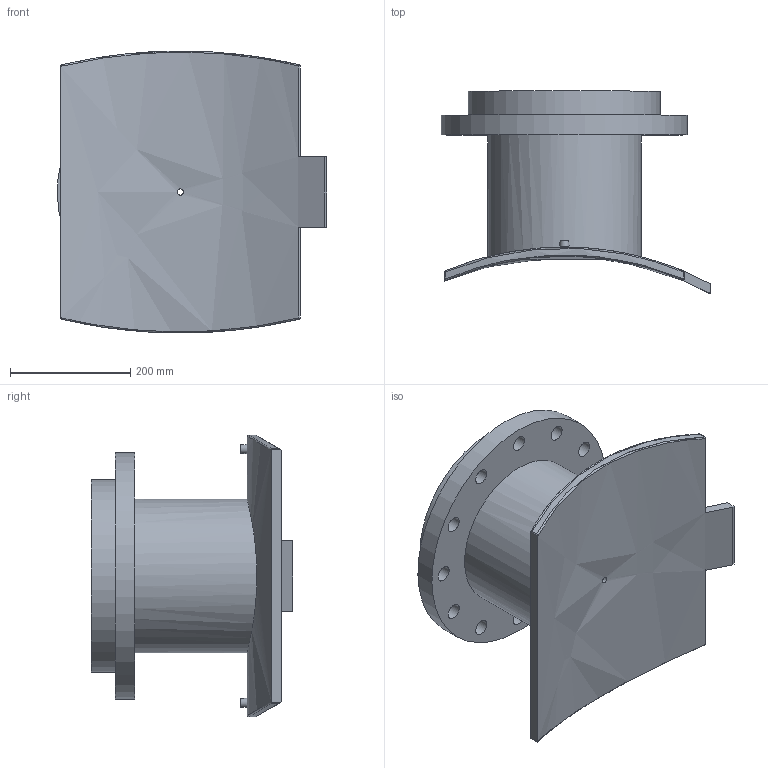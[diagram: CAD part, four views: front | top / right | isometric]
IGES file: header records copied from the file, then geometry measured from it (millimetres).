
Global section: file name: 4959031000250T; native system: Autodesk Inventor 2019; preprocessor: unknown; author: KIM; date: 20240403.210420; units: millimetre
Bounding box: 448.57 x 336.28 x 469.51 mm (x, y, z)
Volume: 11513019.1 mm3; surface area: 1017405.3 mm2
Topology: 1 solids, 1 shells, 62 faces, 163 edges, 126 vertices
Faces by surface type: bspline 62
